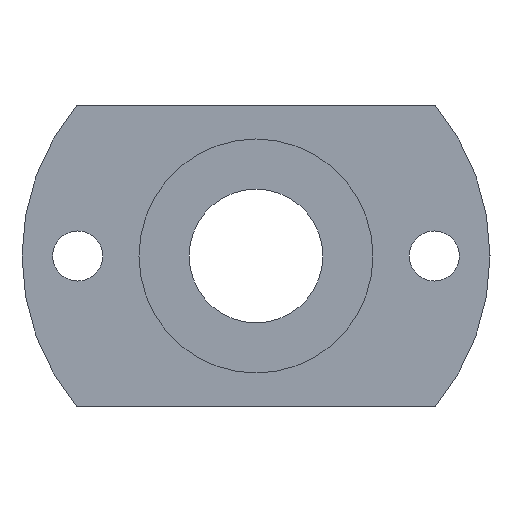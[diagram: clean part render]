
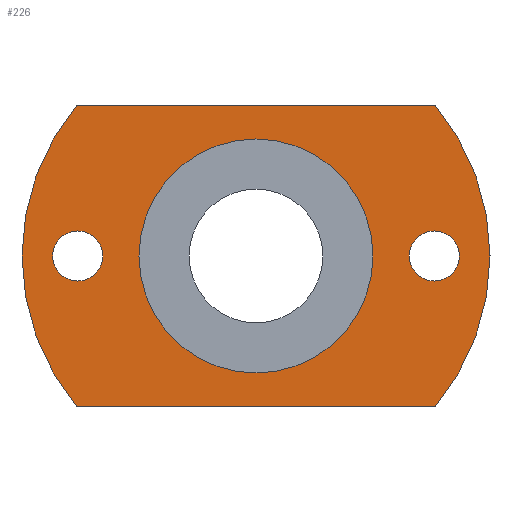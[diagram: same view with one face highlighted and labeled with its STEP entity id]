
A CAD part, left-side view. The second image highlights one B-rep face of the part: STEP entity #226.
In plain terms, the highlighted planar face has unit normal (-1, 0, 0).
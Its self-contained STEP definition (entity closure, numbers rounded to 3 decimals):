
#24=PLANE('',#267);
#31=LINE('',#392,#39);
#32=LINE('',#396,#40);
#39=VECTOR('',#326,1000.);
#40=VECTOR('',#329,1000.);
#64=ORIENTED_EDGE('',*,*,#108,.T.);
#65=ORIENTED_EDGE('',*,*,#109,.F.);
#66=ORIENTED_EDGE('',*,*,#110,.T.);
#67=ORIENTED_EDGE('',*,*,#93,.F.);
#68=ORIENTED_EDGE('',*,*,#111,.T.);
#69=ORIENTED_EDGE('',*,*,#112,.T.);
#70=ORIENTED_EDGE('',*,*,#100,.T.);
#93=EDGE_CURVE('',#117,#118,#136,.T.);
#100=EDGE_CURVE('',#124,#124,#142,.T.);
#108=EDGE_CURVE('',#117,#131,#31,.T.);
#109=EDGE_CURVE('',#132,#131,#148,.T.);
#110=EDGE_CURVE('',#132,#118,#32,.T.);
#111=EDGE_CURVE('',#133,#133,#149,.T.);
#112=EDGE_CURVE('',#134,#134,#150,.T.);
#117=VERTEX_POINT('',#356);
#118=VERTEX_POINT('',#358);
#124=VERTEX_POINT('',#374);
#131=VERTEX_POINT('',#393);
#132=VERTEX_POINT('',#395);
#133=VERTEX_POINT('',#398);
#134=VERTEX_POINT('',#400);
#136=CIRCLE('',#249,21.);
#142=CIRCLE('',#258,10.5);
#148=CIRCLE('',#268,21.);
#149=CIRCLE('',#269,2.25);
#150=CIRCLE('',#270,2.25);
#166=EDGE_LOOP('',(#64,#65,#66,#67));
#167=EDGE_LOOP('',(#68));
#168=EDGE_LOOP('',(#69));
#169=EDGE_LOOP('',(#70));
#196=FACE_BOUND('',#166,.T.);
#197=FACE_BOUND('',#167,.T.);
#198=FACE_BOUND('',#168,.T.);
#199=FACE_BOUND('',#169,.T.);
#226=ADVANCED_FACE('',(#196,#197,#198,#199),#24,.F.);
#249=AXIS2_PLACEMENT_3D('',#357,#285,#286);
#258=AXIS2_PLACEMENT_3D('',#373,#304,#305);
#267=AXIS2_PLACEMENT_3D('',#391,#324,#325);
#268=AXIS2_PLACEMENT_3D('',#394,#327,#328);
#269=AXIS2_PLACEMENT_3D('',#397,#330,#331);
#270=AXIS2_PLACEMENT_3D('',#399,#332,#333);
#285=DIRECTION('',(1.,0.,0.));
#286=DIRECTION('',(0.,0.,-1.));
#304=DIRECTION('',(1.,0.,0.));
#305=DIRECTION('',(0.,0.,-1.));
#324=DIRECTION('',(1.,0.,0.));
#325=DIRECTION('',(0.,0.,-1.));
#326=DIRECTION('',(0.,1.,0.));
#327=DIRECTION('',(1.,0.,0.));
#328=DIRECTION('',(0.,0.,-1.));
#329=DIRECTION('',(0.,-1.,0.));
#330=DIRECTION('',(1.,0.,0.));
#331=DIRECTION('',(0.,0.,-1.));
#332=DIRECTION('',(1.,0.,0.));
#333=DIRECTION('',(0.,0.,-1.));
#356=CARTESIAN_POINT('',(22.5,-16.086,13.5));
#357=CARTESIAN_POINT('',(22.5,0.,0.));
#358=CARTESIAN_POINT('',(22.5,-16.086,-13.5));
#373=CARTESIAN_POINT('',(22.5,0.,0.));
#374=CARTESIAN_POINT('',(22.5,0.,-10.5));
#391=CARTESIAN_POINT('',(22.5,0.,0.));
#392=CARTESIAN_POINT('',(22.5,26.827,13.5));
#393=CARTESIAN_POINT('',(22.5,16.086,13.5));
#394=CARTESIAN_POINT('',(22.5,0.,0.));
#395=CARTESIAN_POINT('',(22.5,16.086,-13.5));
#396=CARTESIAN_POINT('',(22.5,26.827,-13.5));
#397=CARTESIAN_POINT('',(22.5,-16.,0.));
#398=CARTESIAN_POINT('',(22.5,-16.,-2.25));
#399=CARTESIAN_POINT('',(22.5,16.,0.));
#400=CARTESIAN_POINT('',(22.5,16.,-2.25));
